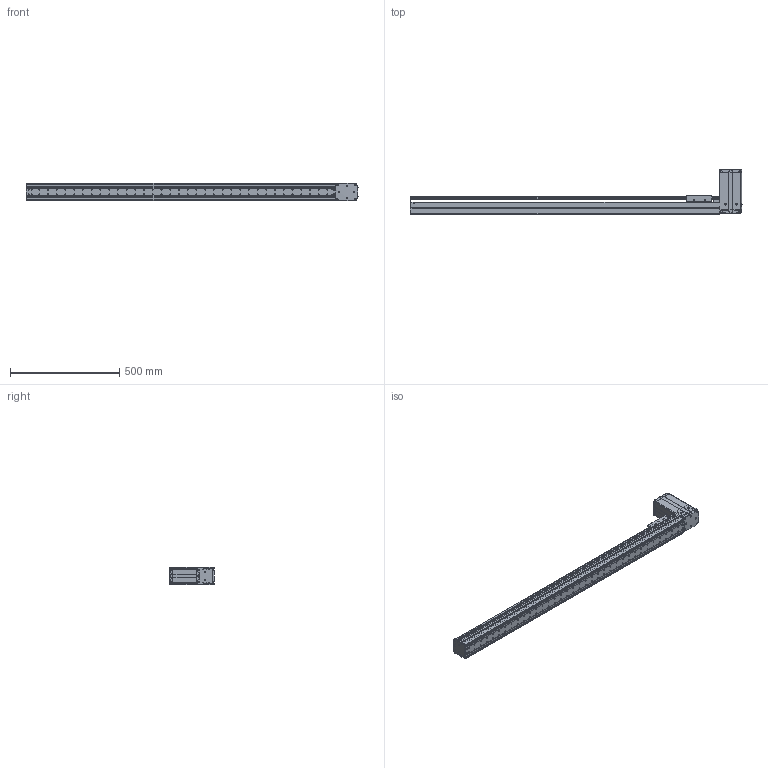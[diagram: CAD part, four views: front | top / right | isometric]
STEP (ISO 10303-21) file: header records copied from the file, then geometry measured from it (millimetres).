
FILE_DESCRIPTION((''),'2;1');
FILE_NAME('BE10_-BT-M_N-C0_IGS_PRT','2017-06-18T',(' '),(''),'PRO/ENGINEER BY PARAMETRIC TECHNOLOGY CORPORATION, 2015030','PRO/ENGINEER BY PARAMETRIC TECHNOLOGY CORPORATION, 2015030','');
FILE_SCHEMA(('CONFIG_CONTROL_DESIGN'));
Products named in the file (1): BE10_-BT-M_N-C0_IGS_PRT
Bounding box: 1520.8 x 204.72 x 78 mm (x, y, z)
Volume: 2162016.3 mm3; surface area: 1460503 mm2
Topology: 2 solids, 169 shells, 2250 faces, 6139 edges, 4069 vertices
Faces by surface type: plane 1060, cylinder 1023, cone 111, sphere 28, torus 25, bspline 3
Entity records: 73277 total; most frequent: CARTESIAN_POINT 15040, DIRECTION 12369, ORIENTED_EDGE 11582, EDGE_CURVE 6077, AXIS2_PLACEMENT_3D 4485, VERTEX_POINT 4069, VECTOR 3399, LINE 3399
